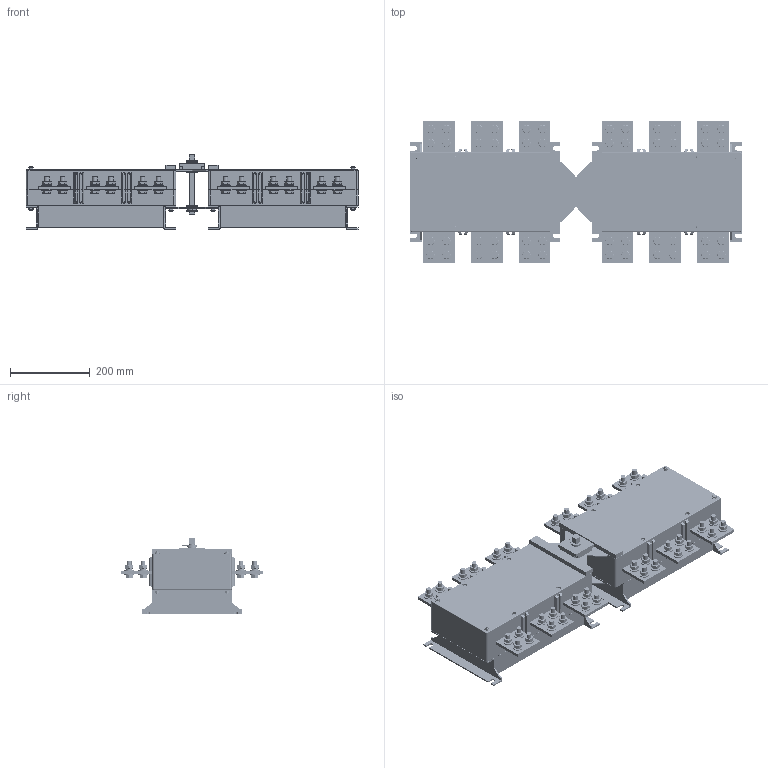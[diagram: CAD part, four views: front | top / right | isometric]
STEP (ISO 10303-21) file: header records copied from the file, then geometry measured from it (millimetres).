
FILE_DESCRIPTION((''),'2;1');
FILE_NAME('1600-3S_ASM','2021-05-07T',('wangpeng'),(''),'PRO/ENGINEER BY PARAMETRIC TECHNOLOGY CORPORATION, 2009460','PRO/ENGINEER BY PARAMETRIC TECHNOLOGY CORPORATION, 2009460','');
FILE_SCHEMA(('AUTOMOTIVE_DESIGN { 1 0 10303 214 1 1 1 1 }'));
Length unit declared in the file: millimetre
Products named in the file (23): SB-1600-3S; ZB-1600-3S; XB-1600-3S; CT-1600-3S; YB-1600-3S; ZCB-1600-3S; DB-1600-3S; DBX-1600-3S; ZCBX-1600-3S; LGM6; LMM6; 0LGM6; PDQ6; PDQ12; LSM12; TDQ12; LMM12; ZSJNH40; FKSNH40; ZSJTNH40; ZZ-1600-3S; DQM8; 1600-3S_ASM
Assembly tree (316 placements, depth 2):
  1600-3S_ASM
    SB-1600-3S  x2
    ZB-1600-3S  x2
    XB-1600-3S  x2
    CT-1600-3S  x6
    YB-1600-3S  x2
    ZCB-1600-3S
    DB-1600-3S  x2
    DBX-1600-3S  x2
    ZCBX-1600-3S
    LGM6  x8
    LMM6  x28
    0LGM6  x8
    PDQ6  x4
    PDQ12  x96
    LSM12  x48
    TDQ12  x48
    LMM12  x48
    ZSJNH40
    FKSNH40  x3
    ZSJTNH40
    ZZ-1600-3S
    DQM8  x2
Bounding box: 835 x 356 x 189 mm (x, y, z)
Volume: 22214848.3 mm3; surface area: 2230748.6 mm2
Topology: 316 solids, 316 shells, 4926 faces, 11135 edges, 6916 vertices
Faces by surface type: plane 2129, cylinder 1473, cone 1200, sphere 76, bspline 32, torus 16
Entity records: 29962 total; most frequent: CARTESIAN_POINT 6810, DIRECTION 4544, ORIENTED_EDGE 3854, EDGE_CURVE 1927, AXIS2_PLACEMENT_3D 1672, VERTEX_POINT 1221, VECTOR 1200, LINE 1200
